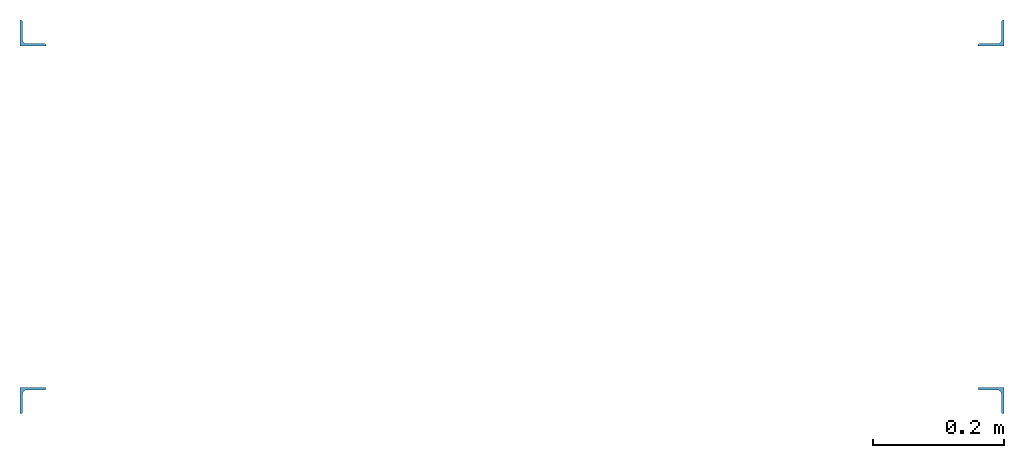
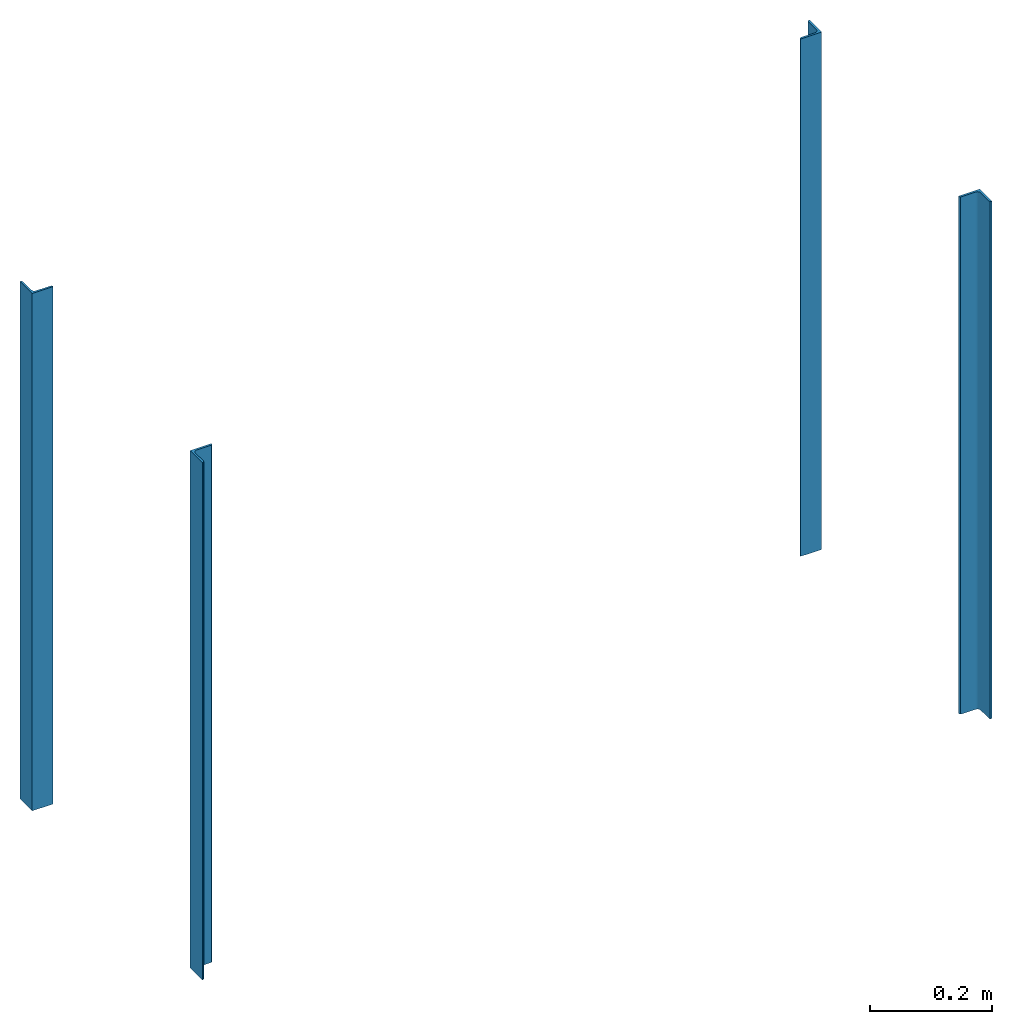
# One storey: 4 beams.
"""IFC4 building model written with IfcOpenShell, lengths in millimetres."""

from ifc_helpers import new_model, entity, si_unit, converted_unit, derived_unit, direction, frame, origin, place, context, subcontext, project, spatial, line, arc, indexed_curve, outline, extrude, source, transform, mapped, material, type_object, type_shapes, element, save


model = new_model("IFC4")

# Units and contexts
model_context = context("Model", 3, precision=0.01, world=origin(), true_north=direction((6.123031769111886e-17, 1.0)))
body_context = subcontext(model_context, "Body", "Model", "MODEL_VIEW")
ifc_project = project(units=[si_unit("LENGTHUNIT", "METRE", prefix="MILLI"), si_unit("AREAUNIT", "SQUARE_METRE"), si_unit("VOLUMEUNIT", "CUBIC_METRE"), converted_unit("PLANEANGLEUNIT", "DEGREE", entity("IfcRatioMeasure", 0.017453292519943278), si_unit("PLANEANGLEUNIT", "RADIAN"), dimensions=[0, 0, 0, 0, 0, 0, 0]), si_unit("MASSUNIT", "GRAM", prefix="KILO"), derived_unit("MASSDENSITYUNIT", [(si_unit("MASSUNIT", "GRAM", prefix="KILO"), 1), (si_unit("LENGTHUNIT", "METRE"), -3)]), derived_unit("MOMENTOFINERTIAUNIT", [(si_unit("LENGTHUNIT", "METRE"), 4)]), si_unit("TIMEUNIT", "SECOND"), si_unit("FREQUENCYUNIT", "HERTZ"), si_unit("THERMODYNAMICTEMPERATUREUNIT", "DEGREE_CELSIUS"), derived_unit("THERMALTRANSMITTANCEUNIT", [(si_unit("MASSUNIT", "GRAM", prefix="KILO"), 1), (si_unit("THERMODYNAMICTEMPERATUREUNIT", "KELVIN"), -1), (si_unit("TIMEUNIT", "SECOND"), -3)]), derived_unit("VOLUMETRICFLOWRATEUNIT", [(si_unit("LENGTHUNIT", "METRE"), 3), (si_unit("TIMEUNIT", "SECOND"), -1)]), derived_unit("MASSFLOWRATEUNIT", [(si_unit("MASSUNIT", "GRAM", prefix="KILO"), 1), (si_unit("TIMEUNIT", "SECOND"), -1)]), derived_unit("ROTATIONALFREQUENCYUNIT", [(si_unit("TIMEUNIT", "SECOND"), -1)]), si_unit("ELECTRICCURRENTUNIT", "AMPERE"), si_unit("ELECTRICVOLTAGEUNIT", "VOLT"), si_unit("POWERUNIT", "WATT"), si_unit("FORCEUNIT", "NEWTON", prefix="KILO"), si_unit("ILLUMINANCEUNIT", "LUX"), si_unit("LUMINOUSFLUXUNIT", "LUMEN"), si_unit("LUMINOUSINTENSITYUNIT", "CANDELA"), derived_unit("USERDEFINED", [(si_unit("MASSUNIT", "GRAM", prefix="KILO"), -1), (si_unit("LENGTHUNIT", "METRE"), -2), (si_unit("TIMEUNIT", "SECOND"), 3), (si_unit("LUMINOUSFLUXUNIT", "LUMEN"), 1)]), derived_unit("SOUNDPOWERUNIT", [(si_unit("MASSUNIT", "GRAM", prefix="KILO"), 1), (si_unit("LENGTHUNIT", "METRE"), 2), (si_unit("TIMEUNIT", "SECOND"), -3)]), derived_unit("SOUNDPRESSUREUNIT", [(si_unit("MASSUNIT", "GRAM", prefix="KILO"), 1), (si_unit("LENGTHUNIT", "METRE"), -1), (si_unit("TIMEUNIT", "SECOND"), -2)]), derived_unit("LINEARVELOCITYUNIT", [(si_unit("LENGTHUNIT", "METRE"), 1), (si_unit("TIMEUNIT", "SECOND"), -1)]), si_unit("PRESSUREUNIT", "PASCAL"), derived_unit("USERDEFINED", [(si_unit("LENGTHUNIT", "METRE"), -2), (si_unit("MASSUNIT", "GRAM", prefix="KILO"), 1), (si_unit("TIMEUNIT", "SECOND"), -2)]), derived_unit("LINEARFORCEUNIT", [(si_unit("MASSUNIT", "GRAM", prefix="KILO"), 1), (si_unit("LENGTHUNIT", "METRE"), 1), (si_unit("TIMEUNIT", "SECOND"), -2), (si_unit("LENGTHUNIT", "METRE"), -1)]), derived_unit("PLANARFORCEUNIT", [(si_unit("MASSUNIT", "GRAM", prefix="KILO"), 1), (si_unit("LENGTHUNIT", "METRE"), 1), (si_unit("TIMEUNIT", "SECOND"), -2), (si_unit("LENGTHUNIT", "METRE"), -2)])], contexts=[model_context])

# Site, building, storey
site_placement = place(None, origin())
site = spatial("IfcSite", under=ifc_project, at=site_placement, Name="Default", CompositionType="ELEMENT")
building_placement = place(site_placement, origin())
building = spatial("IfcBuilding", under=site, at=building_placement, CompositionType="ELEMENT")
storey_placement = place(building_placement, origin())
storey = spatial("IfcBuildingStorey", under=building, at=storey_placement, Name="Level 1", CompositionType="ELEMENT", Elevation=0.0)

# Beams
ifc_material = material(Name="Structural Steel - S235", Category="Materials")
beam_type = type_object("IfcBeamType", Name="Equal L:L40x4", PredefinedType="BEAM", material=ifc_material)
shared_shape = source(origin(), body_context, "Body", "SweptSolid", [
    extrude(outline(indexed_curve([(14.111111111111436, -24.888888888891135), (15.111111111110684, -24.888888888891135), (15.11111111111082, 15.111111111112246), (-24.888888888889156, 15.111111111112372), (-24.888888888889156, 14.111111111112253), (-24.01020923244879, 11.989790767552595), (-21.88888888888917, 11.11111111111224), (5.111111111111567, 11.111111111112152), (9.353751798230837, 9.353751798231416), (11.111111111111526, 5.111111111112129), (11.111111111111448, -21.88888888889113), (11.989790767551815, -24.010209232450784)], segments=[line(1, 2, 3, 4, 5), arc(5, 6, 7), line(7, 8), arc(8, 9, 10), line(10, 11), arc(11, 12, 1)], self_intersect=False)), frame((-519.5999999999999, -3.9111111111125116, 3.9111111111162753), z_axis=(1.0, 0.0, 0.0), x_axis=(0.0, 0.0, -1.0)), (0.0, 0.0, 1.0), 1039.2),
])
type_shapes(beam_type, [shared_shape])
for number, where, z_axis, x_axis in (
    (1, (11.200000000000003, -21.2, 480.40000000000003), (0.0, -1.0, 0.0), (0.0, 0.0, 1.0)),
    (2, (11.199999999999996, 521.2, 480.40000000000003), (1.0, 0.0, 0.0), (0.0, 0.0, 1.0)),
    (3, (1488.8000000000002, 521.1999999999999, 480.40000000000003), (0.0, 1.0, 0.0), (0.0, 0.0, 1.0)),
    (4, (1488.8000000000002, -21.200000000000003, 480.40000000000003), (-1.0, 0.0, 0.0), (0.0, 0.0, 1.0)),
):
    element("IfcBeam", number, at=place(storey_placement, frame(where, z_axis=z_axis, x_axis=x_axis)), inside=storey, type_object=beam_type, material=ifc_material, Name="Equal L:L40x4", ObjectType="Equal L:L40x4", PredefinedType="BEAM", context=body_context, shape_type="MappedRepresentation", body=[
        mapped(shared_shape, transform((0.0, 0.0, 0.0), scale=1.0)),
    ])

save(model, "model.ifc")
